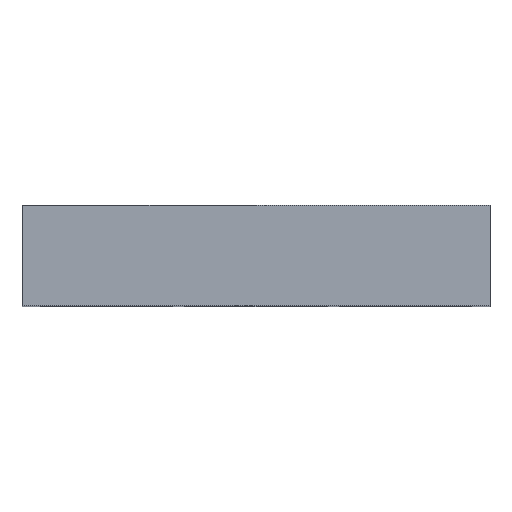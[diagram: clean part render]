
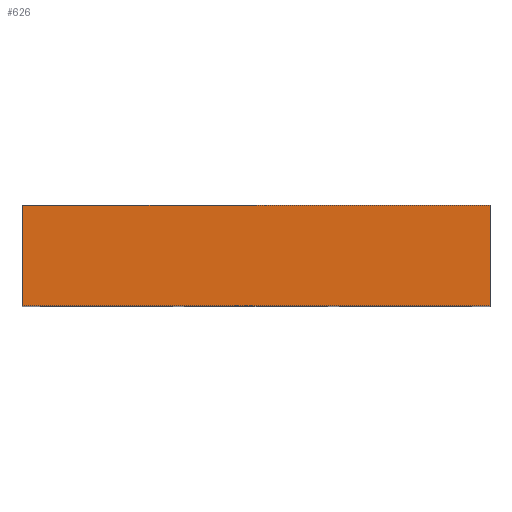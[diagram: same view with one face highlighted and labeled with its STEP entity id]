
A CAD part, top view. The second image highlights one B-rep face of the part: STEP entity #626.
In plain terms, the highlighted planar face has unit normal (0, 0, 1).
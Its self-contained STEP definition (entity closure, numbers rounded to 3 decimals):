
#74 = ORIENTED_EDGE ( 'NONE', *, *, #481, .F. ) ;
#109 = ORIENTED_EDGE ( 'NONE', *, *, #476, .T. ) ;
#164 = ORIENTED_EDGE ( 'NONE', *, *, #499, .F. ) ;
#170 = ORIENTED_EDGE ( 'NONE', *, *, #531, .T. ) ;
#205 = VERTEX_POINT ( 'NONE', #266 ) ;
#212 = VERTEX_POINT ( 'NONE', #272 ) ;
#213 = VERTEX_POINT ( 'NONE', #273 ) ;
#266 = CARTESIAN_POINT ( 'NONE',  ( 151., 0., 214.5 ) ) ;
#272 = CARTESIAN_POINT ( 'NONE',  ( 151., 65., 214.5 ) ) ;
#273 = CARTESIAN_POINT ( 'NONE',  ( -151., 65., 214.5 ) ) ;
#301 = DIRECTION ( 'NONE',  ( 0., -1., 0. ) ) ;
#303 = CARTESIAN_POINT ( 'NONE',  ( 151., 65., 214.5 ) ) ;
#313 = DIRECTION ( 'NONE',  ( 0., -1., 0. ) ) ;
#315 = CARTESIAN_POINT ( 'NONE',  ( -151., 65., 214.5 ) ) ;
#370 = CARTESIAN_POINT ( 'NONE',  ( -151., 65., 214.5 ) ) ;
#373 = DIRECTION ( 'NONE',  ( 1., 0., 0. ) ) ;
#386 = CARTESIAN_POINT ( 'NONE',  ( -151., 0., 214.5 ) ) ;
#391 = DIRECTION ( 'NONE',  ( 1., 0., 0. ) ) ;
#476 = EDGE_CURVE ( 'NONE', #213, #861, #1012, .T. ) ;
#481 = EDGE_CURVE ( 'NONE', #212, #205, #1019, .T. ) ;
#499 = EDGE_CURVE ( 'NONE', #213, #212, #1008, .T. ) ;
#531 = EDGE_CURVE ( 'NONE', #861, #205, #977, .T. ) ;
#594 = AXIS2_PLACEMENT_3D ( 'NONE', #699, #705, #706 ) ;
#626 = ADVANCED_FACE ( 'NONE', ( #891 ), #695, .F. ) ;
#695 = PLANE ( 'NONE',  #594 ) ;
#699 = CARTESIAN_POINT ( 'NONE',  ( -151., 65., 214.5 ) ) ;
#705 = DIRECTION ( 'NONE',  ( 0., 0., -1. ) ) ;
#706 = DIRECTION ( 'NONE',  ( -1., 0., 0. ) ) ;
#821 = CARTESIAN_POINT ( 'NONE',  ( -151., 0., 214.5 ) ) ;
#861 = VERTEX_POINT ( 'NONE', #821 ) ;
#891 = FACE_OUTER_BOUND ( 'NONE', #1003, .T. ) ;
#964 = VECTOR ( 'NONE', #391, 1000. ) ;
#977 = LINE ( 'NONE', #386, #964 ) ;
#982 = VECTOR ( 'NONE', #373, 1000. ) ;
#1003 = EDGE_LOOP ( 'NONE', ( #170, #74, #164, #109 ) ) ;
#1008 = LINE ( 'NONE', #370, #982 ) ;
#1012 = LINE ( 'NONE', #315, #1029 ) ;
#1019 = LINE ( 'NONE', #303, #1162 ) ;
#1029 = VECTOR ( 'NONE', #301, 1000. ) ;
#1162 = VECTOR ( 'NONE', #313, 1000. ) ;
